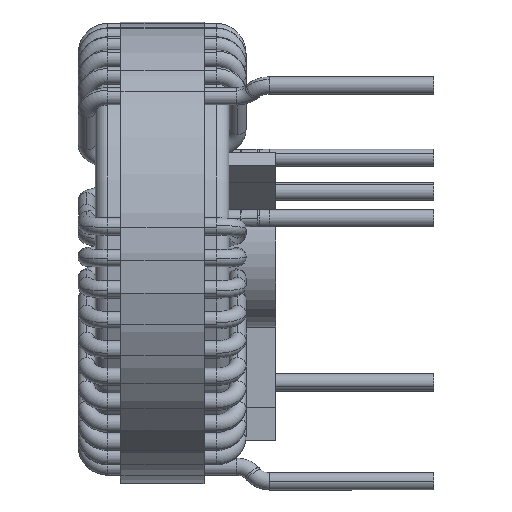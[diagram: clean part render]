
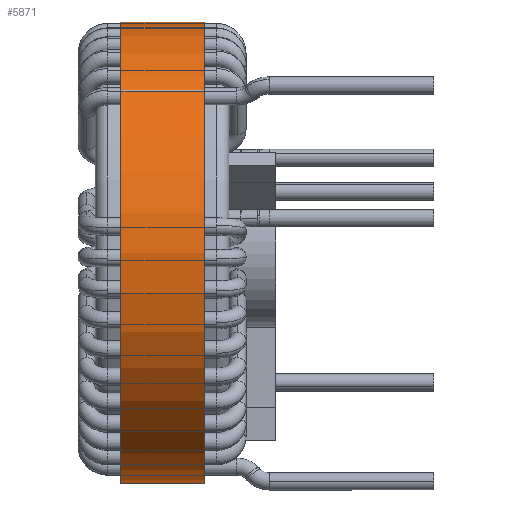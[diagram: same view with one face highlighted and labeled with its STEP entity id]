
A CAD part, left-side view. The second image highlights one B-rep face of the part: STEP entity #5871.
In plain terms, the highlighted cylindrical face has radius 27.503 mm (diameter 55.005 mm), a partial arc.
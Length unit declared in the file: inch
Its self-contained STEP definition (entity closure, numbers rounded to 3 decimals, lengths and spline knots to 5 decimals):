
#577 = CARTESIAN_POINT ( 'NONE',  ( 0., 0.11614, 1.08278 ) ) ;
#1747 = DIRECTION ( 'NONE',  ( 0., 1., 0. ) ) ;
#1925 = EDGE_LOOP ( 'NONE', ( #16848, #18624, #10535, #20061 ) ) ;
#2608 = DIRECTION ( 'NONE',  ( 0., -1., 0. ) ) ;
#2744 = DIRECTION ( 'NONE',  ( 0., 0., 1. ) ) ;
#4160 = DIRECTION ( 'NONE',  ( 0., -1., 0. ) ) ;
#4841 = DIRECTION ( 'NONE',  ( 0., 0., 1. ) ) ;
#5582 = AXIS2_PLACEMENT_3D ( 'NONE', #5638, #1747, #4841 ) ;
#5638 = CARTESIAN_POINT ( 'NONE',  ( 0., 0.50984, 0. ) ) ;
#5871 = ADVANCED_FACE ( 'NONE', ( #9497 ), #14134, .T. ) ;
#6129 = VECTOR ( 'NONE', #4160, 39.37008 ) ;
#6295 = DIRECTION ( 'NONE',  ( 0., 1., 0. ) ) ;
#6639 = EDGE_CURVE ( 'NONE', #22260, #22079, #21382, .T. ) ;
#6872 = CARTESIAN_POINT ( 'NONE',  ( 0., 0.50984, 1.08278 ) ) ;
#7173 = DIRECTION ( 'NONE',  ( 0., -1., 0. ) ) ;
#8379 = EDGE_CURVE ( 'NONE', #11310, #22179, #14250, .T. ) ;
#9497 = FACE_OUTER_BOUND ( 'NONE', #1925, .T. ) ;
#9610 = VECTOR ( 'NONE', #2608, 39.37008 ) ;
#10114 = CARTESIAN_POINT ( 'NONE',  ( 0., 0.11614, -1.08278 ) ) ;
#10535 = ORIENTED_EDGE ( 'NONE', *, *, #16658, .T. ) ;
#11310 = VERTEX_POINT ( 'NONE', #14314 ) ;
#13151 = CARTESIAN_POINT ( 'NONE',  ( 0., 0.50984, 1.08278 ) ) ;
#14134 = CYLINDRICAL_SURFACE ( 'NONE', #21030, 1.08278 ) ;
#14250 = CIRCLE ( 'NONE', #5582, 1.08278 ) ;
#14314 = CARTESIAN_POINT ( 'NONE',  ( 0., 0.50984, -1.08278 ) ) ;
#14714 = CARTESIAN_POINT ( 'NONE',  ( 0., 0.50984, -1.08278 ) ) ;
#15475 = LINE ( 'NONE', #14714, #6129 ) ;
#16393 = EDGE_CURVE ( 'NONE', #22179, #22079, #23477, .T. ) ;
#16658 = EDGE_CURVE ( 'NONE', #11310, #22260, #15475, .T. ) ;
#16848 = ORIENTED_EDGE ( 'NONE', *, *, #16393, .F. ) ;
#17652 = CARTESIAN_POINT ( 'NONE',  ( 0., 0.50984, 0. ) ) ;
#18624 = ORIENTED_EDGE ( 'NONE', *, *, #8379, .F. ) ;
#20061 = ORIENTED_EDGE ( 'NONE', *, *, #6639, .T. ) ;
#21030 = AXIS2_PLACEMENT_3D ( 'NONE', #17652, #7173, #23707 ) ;
#21382 = CIRCLE ( 'NONE', #21806, 1.08278 ) ;
#21806 = AXIS2_PLACEMENT_3D ( 'NONE', #23626, #6295, #2744 ) ;
#22079 = VERTEX_POINT ( 'NONE', #577 ) ;
#22179 = VERTEX_POINT ( 'NONE', #6872 ) ;
#22260 = VERTEX_POINT ( 'NONE', #10114 ) ;
#23477 = LINE ( 'NONE', #13151, #9610 ) ;
#23626 = CARTESIAN_POINT ( 'NONE',  ( 0., 0.11614, 0. ) ) ;
#23707 = DIRECTION ( 'NONE',  ( 0., 0., -1. ) ) ;
